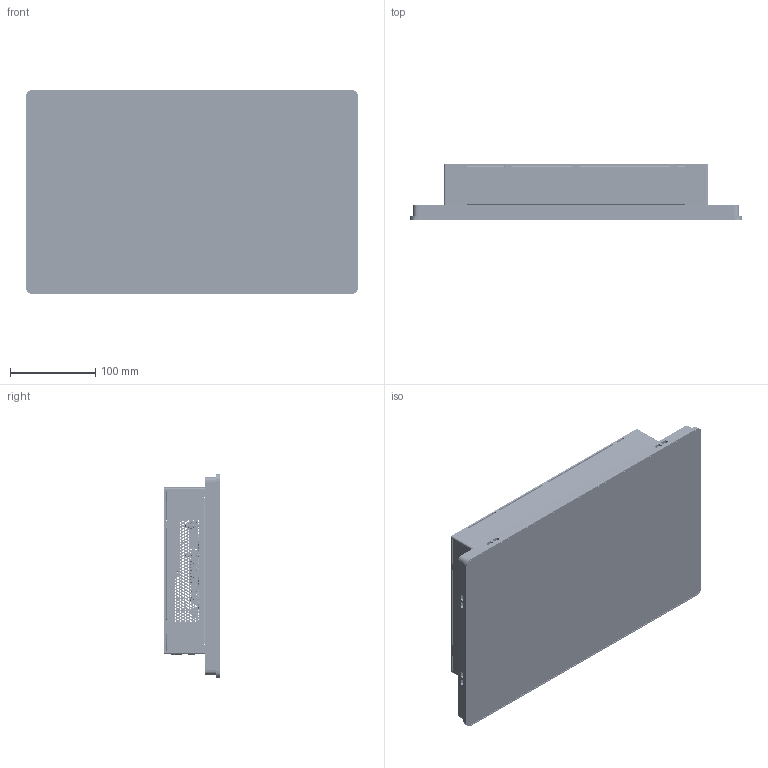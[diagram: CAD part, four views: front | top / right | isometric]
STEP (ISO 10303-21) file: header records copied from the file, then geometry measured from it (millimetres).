
FILE_DESCRIPTION((''),'2;1');
FILE_NAME('000-VT3000_ASM','2023-04-07T18:37:04',('qinyangfan'),(''),'CREO PARAMETRIC BY PTC INC, 2020044','CREO PARAMETRIC BY PTC INC, 2020044','');
FILE_SCHEMA(('CONFIG_CONTROL_DESIGN','SHAPE_APPEARANCE_LAYERS_GROUPS'));
Products named in the file (92): DE-13-001027; DE-11-040366; 8002-BSOS-M3-10; 8002-BSOS-3_5M3-16; 8002-BSOS-7_2M3-10-D1_5; 8002-CLS-M3-0; 8002-TPS_3-8; DE-11-040366_ASM; DE-19-005064; DE-19-005097; DE-20-012161_ASM; DE-11-040367; DE-17-001811; DE-19-004955; DE-20-012160_ASM; DE-11-041427; DE-11-041443; DE-20-012086_ASM; DE-11-041438; 8002-TPS_2-6; DE-11-041438_ASM; DE-11-041439; 8002-BS-M4-2-T11_2; BSOS_M3_8; DE-11-041439_ASM; DE-11-041441; 3-6_GB12616; DE-11-041667_15; DE-20-012085_ASM; DE-12-003019; DE-11-004220; TGM-124; 0008_ASM; DE-20-012163_ASM; DE-20-012162_ASM; DE-19-005066; DE-19-005067; DE-19-005068; DE-20-012167_ASM; DE-20-012166_ASM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
Assembly tree (193 placements, depth 7):
  000-VT3000_ASM
    DE-20-012160_ASM
      DE-13-001027
      DE-11-040366_ASM
        DE-11-040366
        8002-BSOS-M3-10  x5
        8002-BSOS-3_5M3-16  x4
        8002-BSOS-7_2M3-10-D1_5  x2
        8002-CLS-M3-0  x7
        8002-TPS_3-8  x2
      DE-20-012161_ASM
        DE-19-005064
        DE-19-005097
      DE-11-040367  x2
      DE-17-001811  x8
      DE-19-004955  x2
    DE-20-012162_ASM
      DE-20-012163_ASM
        DE-20-012086_ASM
          DE-11-041427
          DE-11-041443
        DE-11-041438_ASM
          DE-11-041438
          8002-TPS_2-6  x2
        DE-20-012085_ASM
          DE-11-041439_ASM
            DE-11-041439
            8002-BS-M4-2-T11_2  x8
            BSOS_M3_8  x4
            8002-TPS_3-8  x4
          DE-11-041441
          3-6_GB12616  x2
          DE-11-041667_15
        DE-12-003019
        0008_ASM
          DE-11-004220
          TGM-124  x4
    DE-20-012164_ASM
      DE-20-012165_ASM
        DE-19-005066
        DE-20-012166_ASM
          DE-20-012167_ASM
            DE-19-005067
            DE-19-005068
        101305185
        101305184
        101300377
        101304314  x2
        101300672
        101302217
        101303705  x2
        101300561
        101304772
        101301030  x2
        101305744  x2
        101400088  x2
        PRT0020
        101301530
        101304356
        101105775
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Bounding box: 390 x 65.78 x 240 mm (x, y, z)
Volume: 922953 mm3; surface area: 1327720.2 mm2
Topology: 274 solids, 520 shells, 51102 faces, 145976 edges, 94988 vertices
Faces by surface type: plane 35309, cylinder 12901, torus 1033, bspline 860, cone 637, extrusion 199, sphere 157, revolution 6
Entity records: 1281826 total; most frequent: CARTESIAN_POINT 273153, ORIENTED_EDGE 179476, DIRECTION 167471, EDGE_CURVE 90380, VECTOR 68814, LINE 68711, VERTEX_POINT 58999, AXIS2_PLACEMENT_3D 49327
